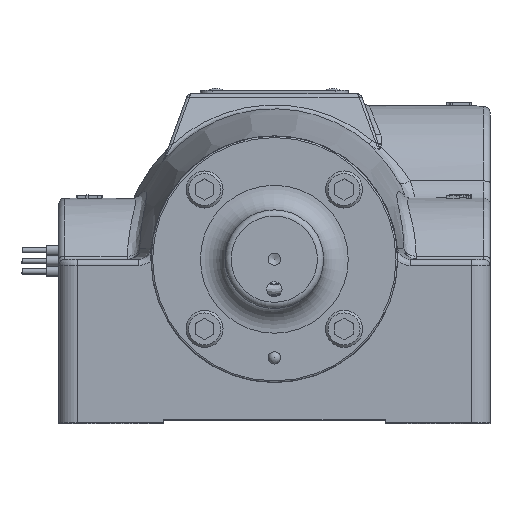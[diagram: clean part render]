
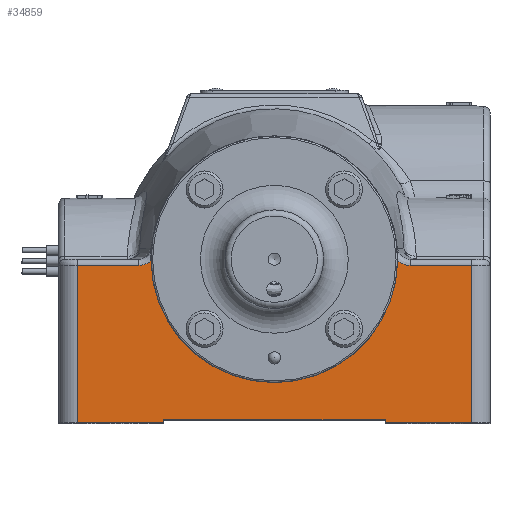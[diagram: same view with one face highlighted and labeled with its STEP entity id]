
A CAD part, top view. The second image highlights one B-rep face of the part: STEP entity #34859.
In plain terms, the highlighted planar face has unit normal (0, 0, 1).
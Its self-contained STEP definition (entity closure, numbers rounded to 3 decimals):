
#1630=B_SPLINE_CURVE_WITH_KNOTS('',3,(#57519,#57520,#57521,#57522),
 .UNSPECIFIED.,.F.,.F.,(4,4),(0.356,0.703),
 .UNSPECIFIED.);
#1631=B_SPLINE_CURVE_WITH_KNOTS('',3,(#57526,#57527,#57528,#57529,#57530),
 .UNSPECIFIED.,.F.,.F.,(4,1,4),(0.,0.291,0.347),
 .UNSPECIFIED.);
#2755=PLANE('',#37726);
#3865=FACE_OUTER_BOUND('',#6058,.T.);
#6058=EDGE_LOOP('',(#24943,#24944,#24945,#24946,#24947,#24948,#24949,#24950,
#24951,#24952,#24953,#24954));
#8341=CIRCLE('',#37727,3.178);
#10289=LINE('',#57513,#12107);
#10290=LINE('',#57515,#12108);
#10291=LINE('',#57517,#12109);
#10292=LINE('',#57532,#12110);
#10293=LINE('',#57534,#12111);
#10294=LINE('',#57536,#12112);
#10295=LINE('',#57538,#12113);
#10296=LINE('',#57540,#12114);
#10297=LINE('',#57541,#12115);
#12107=VECTOR('',#43621,1.);
#12108=VECTOR('',#43622,1.);
#12109=VECTOR('',#43623,1.);
#12110=VECTOR('',#43626,1.);
#12111=VECTOR('',#43627,1.);
#12112=VECTOR('',#43628,1.);
#12113=VECTOR('',#43629,1.);
#12114=VECTOR('',#43630,1.);
#12115=VECTOR('',#43631,1.);
#14362=VERTEX_POINT('',#57511);
#14363=VERTEX_POINT('',#57512);
#14364=VERTEX_POINT('',#57514);
#14365=VERTEX_POINT('',#57516);
#14366=VERTEX_POINT('',#57518);
#14367=VERTEX_POINT('',#57523);
#14368=VERTEX_POINT('',#57525);
#14369=VERTEX_POINT('',#57531);
#14370=VERTEX_POINT('',#57533);
#14371=VERTEX_POINT('',#57535);
#14372=VERTEX_POINT('',#57537);
#14373=VERTEX_POINT('',#57539);
#18180=EDGE_CURVE('',#14362,#14363,#10289,.T.);
#18181=EDGE_CURVE('',#14364,#14363,#10290,.T.);
#18182=EDGE_CURVE('',#14365,#14364,#10291,.T.);
#18183=EDGE_CURVE('',#14366,#14365,#1630,.T.);
#18184=EDGE_CURVE('',#14367,#14366,#8341,.T.);
#18185=EDGE_CURVE('',#14368,#14367,#1631,.T.);
#18186=EDGE_CURVE('',#14369,#14368,#10292,.T.);
#18187=EDGE_CURVE('',#14370,#14369,#10293,.T.);
#18188=EDGE_CURVE('',#14370,#14371,#10294,.T.);
#18189=EDGE_CURVE('',#14371,#14372,#10295,.T.);
#18190=EDGE_CURVE('',#14372,#14373,#10296,.T.);
#18191=EDGE_CURVE('',#14373,#14362,#10297,.T.);
#24943=ORIENTED_EDGE('',*,*,#18180,.T.);
#24944=ORIENTED_EDGE('',*,*,#18181,.F.);
#24945=ORIENTED_EDGE('',*,*,#18182,.F.);
#24946=ORIENTED_EDGE('',*,*,#18183,.F.);
#24947=ORIENTED_EDGE('',*,*,#18184,.F.);
#24948=ORIENTED_EDGE('',*,*,#18185,.F.);
#24949=ORIENTED_EDGE('',*,*,#18186,.F.);
#24950=ORIENTED_EDGE('',*,*,#18187,.F.);
#24951=ORIENTED_EDGE('',*,*,#18188,.T.);
#24952=ORIENTED_EDGE('',*,*,#18189,.T.);
#24953=ORIENTED_EDGE('',*,*,#18190,.T.);
#24954=ORIENTED_EDGE('',*,*,#18191,.T.);
#34859=ADVANCED_FACE('',(#3865),#2755,.T.);
#37726=AXIS2_PLACEMENT_3D('',#57510,#43619,#43620);
#37727=AXIS2_PLACEMENT_3D('',#57524,#43624,#43625);
#43619=DIRECTION('center_axis',(0.,0.,1.));
#43620=DIRECTION('ref_axis',(1.,0.,0.));
#43621=DIRECTION('',(1.,0.,0.));
#43622=DIRECTION('',(0.,-1.,0.));
#43623=DIRECTION('',(1.,0.,0.));
#43624=DIRECTION('center_axis',(0.,0.,1.));
#43625=DIRECTION('ref_axis',(-1.,0.,0.));
#43626=DIRECTION('',(1.,0.,0.));
#43627=DIRECTION('',(0.,1.,0.));
#43628=DIRECTION('',(1.,0.,0.));
#43629=DIRECTION('',(0.,1.,0.));
#43630=DIRECTION('',(1.,0.,0.));
#43631=DIRECTION('',(0.,-1.,0.));
#57510=CARTESIAN_POINT('Origin',(0.,-4.286,8.652));
#57511=CARTESIAN_POINT('',(2.858,-4.207,8.652));
#57512=CARTESIAN_POINT('',(5.08,-4.207,8.652));
#57513=CARTESIAN_POINT('',(0.,-4.207,8.652));
#57514=CARTESIAN_POINT('',(5.08,-0.159,8.652));
#57515=CARTESIAN_POINT('',(5.08,-3.215,8.652));
#57516=CARTESIAN_POINT('',(3.497,-0.159,8.652));
#57517=CARTESIAN_POINT('',(0.,-0.159,8.652));
#57518=CARTESIAN_POINT('',(3.177,-0.037,8.652));
#57519=CARTESIAN_POINT('Ctrl Pts',(3.178,-0.037,
8.652));
#57520=CARTESIAN_POINT('Ctrl Pts',(3.265,-0.114,
8.652));
#57521=CARTESIAN_POINT('Ctrl Pts',(3.381,-0.159,
8.652));
#57522=CARTESIAN_POINT('Ctrl Pts',(3.497,-0.159,
8.652));
#57523=CARTESIAN_POINT('',(-3.177,-0.037,8.652));
#57524=CARTESIAN_POINT('Origin',(0.,0.,8.652));
#57525=CARTESIAN_POINT('',(-3.497,-0.159,8.652));
#57526=CARTESIAN_POINT('Ctrl Pts',(-3.497,-0.159,
8.652));
#57527=CARTESIAN_POINT('Ctrl Pts',(-3.4,-0.159,
8.652));
#57528=CARTESIAN_POINT('Ctrl Pts',(-3.283,-0.122,
8.652));
#57529=CARTESIAN_POINT('Ctrl Pts',(-3.192,-0.05,
8.652));
#57530=CARTESIAN_POINT('Ctrl Pts',(-3.178,-0.037,
8.652));
#57531=CARTESIAN_POINT('',(-5.08,-0.159,8.652));
#57532=CARTESIAN_POINT('',(0.,-0.159,8.652));
#57533=CARTESIAN_POINT('',(-5.08,-4.207,8.652));
#57534=CARTESIAN_POINT('',(-5.08,-3.215,8.652));
#57535=CARTESIAN_POINT('',(-2.858,-4.207,8.652));
#57536=CARTESIAN_POINT('',(0.,-4.207,8.652));
#57537=CARTESIAN_POINT('',(-2.858,-4.128,8.652));
#57538=CARTESIAN_POINT('',(-2.858,-4.247,8.652));
#57539=CARTESIAN_POINT('',(2.858,-4.128,8.652));
#57540=CARTESIAN_POINT('',(0.,-4.128,8.652));
#57541=CARTESIAN_POINT('',(2.858,-4.247,8.652));
